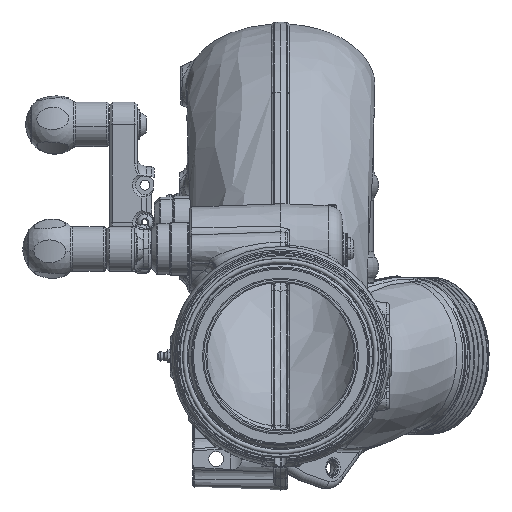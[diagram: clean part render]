
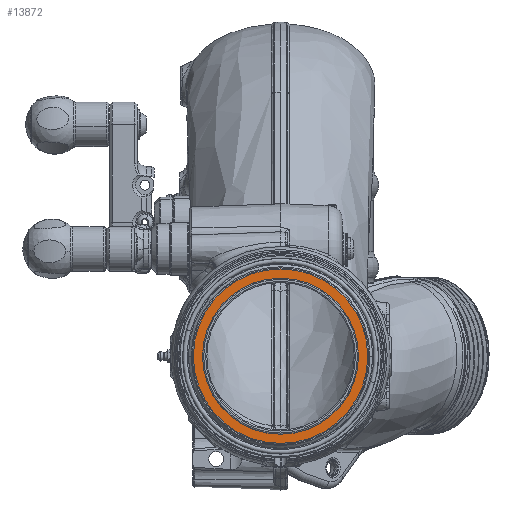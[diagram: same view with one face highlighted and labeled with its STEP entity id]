
A CAD part, front view. The second image highlights one B-rep face of the part: STEP entity #13872.
In plain terms, the highlighted planar face has unit normal (0, -1, 0).
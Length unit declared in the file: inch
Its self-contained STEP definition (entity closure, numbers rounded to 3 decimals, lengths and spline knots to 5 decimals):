
#927 = CARTESIAN_POINT ( 'NONE',  ( 2.08, -8.4888, 0. ) ) ;
#4063 = EDGE_CURVE ( 'NONE', #101981, #110804, #51130, .T. ) ;
#4493 = VERTEX_POINT ( 'NONE', #133855 ) ;
#4785 = CARTESIAN_POINT ( 'NONE',  ( -2.08, -8.4888, 0. ) ) ;
#5848 = AXIS2_PLACEMENT_3D ( 'NONE', #14943, #119034, #34867 ) ;
#10177 = CIRCLE ( 'NONE', #5848, 2.3375 ) ;
#12408 = DIRECTION ( 'NONE',  ( 0., -1., 0. ) ) ;
#13872 = ADVANCED_FACE ( 'NONE', ( #115540, #128781 ), #42518, .T. ) ;
#14943 = CARTESIAN_POINT ( 'NONE',  ( 0., -8.4888, 0. ) ) ;
#17562 = VERTEX_POINT ( 'NONE', #19411 ) ;
#19411 = CARTESIAN_POINT ( 'NONE',  ( 2.3375, -8.4888, 0. ) ) ;
#20206 = CARTESIAN_POINT ( 'NONE',  ( 0., -8.4888, 0. ) ) ;
#22834 = EDGE_CURVE ( 'NONE', #110804, #101981, #51845, .T. ) ;
#27646 = ORIENTED_EDGE ( 'NONE', *, *, #22834, .F. ) ;
#30341 = DIRECTION ( 'NONE',  ( 0., -1., 0. ) ) ;
#31455 = ORIENTED_EDGE ( 'NONE', *, *, #52142, .T. ) ;
#32882 = CARTESIAN_POINT ( 'NONE',  ( 0., -8.4888, 0. ) ) ;
#34867 = DIRECTION ( 'NONE',  ( 1., 0., 0. ) ) ;
#39953 = EDGE_LOOP ( 'NONE', ( #31455, #99130 ) ) ;
#42518 = PLANE ( 'NONE',  #104722 ) ;
#42893 = CIRCLE ( 'NONE', #82431, 2.3375 ) ;
#51130 = CIRCLE ( 'NONE', #61593, 2.08 ) ;
#51845 = CIRCLE ( 'NONE', #114870, 2.08 ) ;
#52142 = EDGE_CURVE ( 'NONE', #17562, #4493, #42893, .T. ) ;
#53193 = DIRECTION ( 'NONE',  ( 1., 0., 0. ) ) ;
#61593 = AXIS2_PLACEMENT_3D ( 'NONE', #20206, #30341, #115420 ) ;
#64714 = CARTESIAN_POINT ( 'NONE',  ( 0., -8.4888, 2.3375 ) ) ;
#65743 = DIRECTION ( 'NONE',  ( 0., -1., 0. ) ) ;
#74465 = EDGE_LOOP ( 'NONE', ( #27646, #77500 ) ) ;
#75411 = DIRECTION ( 'NONE',  ( 0., -1., 0. ) ) ;
#77500 = ORIENTED_EDGE ( 'NONE', *, *, #4063, .F. ) ;
#82431 = AXIS2_PLACEMENT_3D ( 'NONE', #32882, #75411, #84681 ) ;
#84681 = DIRECTION ( 'NONE',  ( 1., 0., 0. ) ) ;
#88804 = CARTESIAN_POINT ( 'NONE',  ( 0., -8.4888, 0. ) ) ;
#99130 = ORIENTED_EDGE ( 'NONE', *, *, #123412, .T. ) ;
#101981 = VERTEX_POINT ( 'NONE', #4785 ) ;
#104722 = AXIS2_PLACEMENT_3D ( 'NONE', #64714, #12408, #53193 ) ;
#110804 = VERTEX_POINT ( 'NONE', #927 ) ;
#114870 = AXIS2_PLACEMENT_3D ( 'NONE', #88804, #65743, #119366 ) ;
#115420 = DIRECTION ( 'NONE',  ( 1., 0., 0. ) ) ;
#115540 = FACE_OUTER_BOUND ( 'NONE', #39953, .T. ) ;
#119034 = DIRECTION ( 'NONE',  ( 0., -1., 0. ) ) ;
#119366 = DIRECTION ( 'NONE',  ( 1., 0., 0. ) ) ;
#123412 = EDGE_CURVE ( 'NONE', #4493, #17562, #10177, .T. ) ;
#128781 = FACE_BOUND ( 'NONE', #74465, .T. ) ;
#133855 = CARTESIAN_POINT ( 'NONE',  ( -2.3375, -8.4888, 0. ) ) ;
